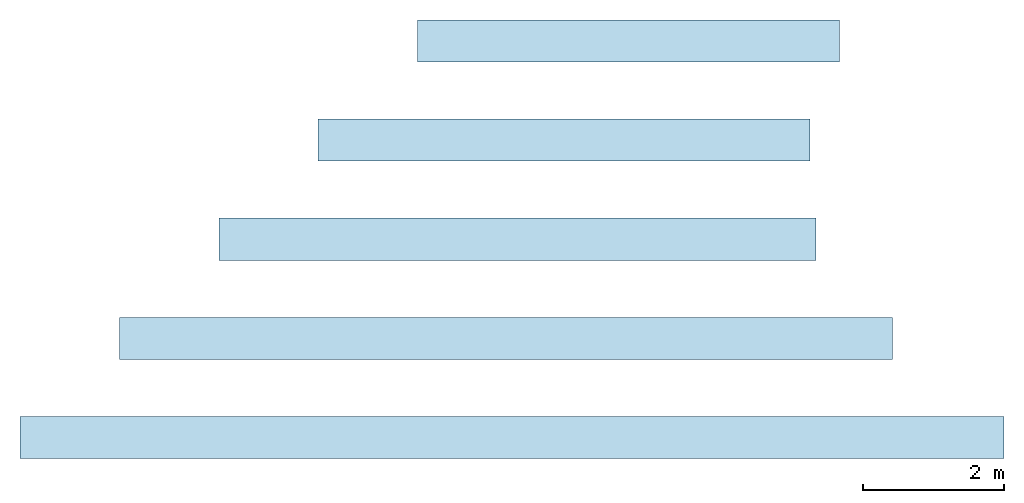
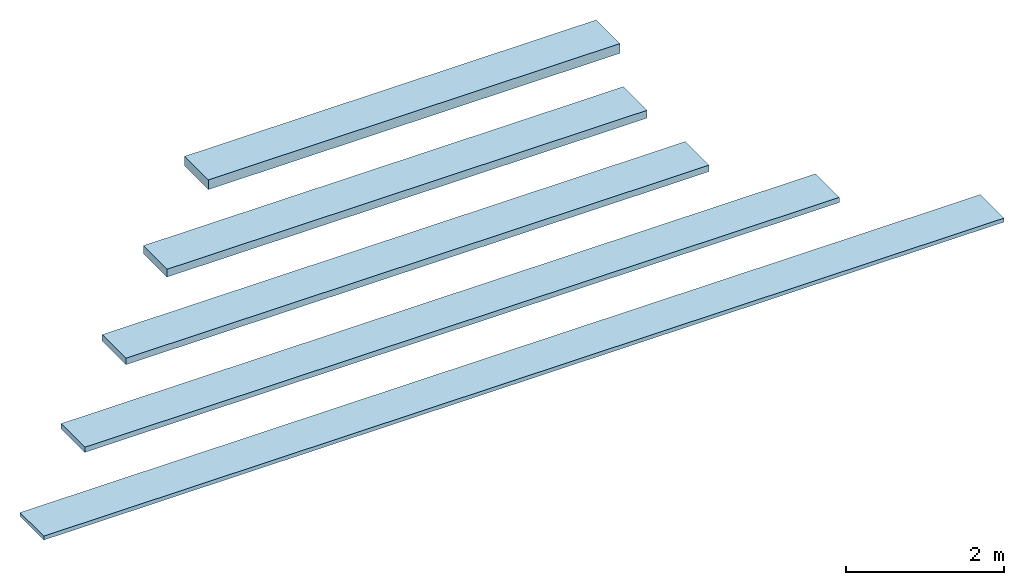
# One storey: 5 slabs, 5 elements without a shape of their own.
"""IFC2X3 building model written with IfcOpenShell, lengths in millimetres."""

from ifc_helpers import new_model, entity, si_unit, converted_unit, derived_unit, direction, frame, frame_2d, origin, origin_2d_with_axis, place, context, subcontext, project, spatial, rectangle, extrude, material, layer, layer_set, element, aggregate, save


model = new_model("IFC2X3")

# Units and contexts
model_context = context("Model", 3, precision=0.01, world=origin(), true_north=direction((6.12303176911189e-17, 1.0)))
context_of_model = context(None, 3, precision=0.01, world=origin(), true_north=direction((6.12303176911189e-17, 1.0)))
body_context = subcontext(model_context, "Body", "Model", "MODEL_VIEW")
ifc_project = project(units=[si_unit("LENGTHUNIT", "METRE", prefix="MILLI"), si_unit("AREAUNIT", "SQUARE_METRE"), si_unit("VOLUMEUNIT", "CUBIC_METRE"), converted_unit("PLANEANGLEUNIT", "DEGREE", entity("IfcRatioMeasure", 0.0174532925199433), si_unit("PLANEANGLEUNIT", "RADIAN"), dimensions=[0, 0, 0, 0, 0, 0, 0]), si_unit("MASSUNIT", "GRAM", prefix="KILO"), derived_unit("MASSDENSITYUNIT", [(si_unit("MASSUNIT", "GRAM", prefix="KILO"), 1), (si_unit("LENGTHUNIT", "METRE"), -3)]), si_unit("TIMEUNIT", "SECOND"), si_unit("FREQUENCYUNIT", "HERTZ"), si_unit("THERMODYNAMICTEMPERATUREUNIT", "DEGREE_CELSIUS"), derived_unit("THERMALTRANSMITTANCEUNIT", [(si_unit("MASSUNIT", "GRAM", prefix="KILO"), 1), (si_unit("THERMODYNAMICTEMPERATUREUNIT", "KELVIN"), -1), (si_unit("TIMEUNIT", "SECOND"), -3)]), derived_unit("VOLUMETRICFLOWRATEUNIT", [(si_unit("LENGTHUNIT", "METRE"), 3), (si_unit("TIMEUNIT", "SECOND"), -1)]), si_unit("ELECTRICCURRENTUNIT", "AMPERE"), si_unit("ELECTRICVOLTAGEUNIT", "VOLT"), si_unit("POWERUNIT", "WATT"), si_unit("FORCEUNIT", "NEWTON", prefix="KILO"), si_unit("ILLUMINANCEUNIT", "LUX"), si_unit("LUMINOUSFLUXUNIT", "LUMEN"), si_unit("LUMINOUSINTENSITYUNIT", "CANDELA"), derived_unit("USERDEFINED", [(si_unit("MASSUNIT", "GRAM", prefix="KILO"), -1), (si_unit("LENGTHUNIT", "METRE"), -2), (si_unit("TIMEUNIT", "SECOND"), 3), (si_unit("LUMINOUSFLUXUNIT", "LUMEN"), 1)]), derived_unit("LINEARVELOCITYUNIT", [(si_unit("LENGTHUNIT", "METRE"), 1), (si_unit("TIMEUNIT", "SECOND"), -1)]), si_unit("PRESSUREUNIT", "PASCAL"), derived_unit("USERDEFINED", [(si_unit("LENGTHUNIT", "METRE"), -2), (si_unit("MASSUNIT", "GRAM", prefix="KILO"), 1), (si_unit("TIMEUNIT", "SECOND"), -2)])], contexts=[model_context, context_of_model])

# Site, building, storey
site_placement = place(None, origin())
site = spatial("IfcSite", under=ifc_project, at=site_placement, Name="Default", CompositionType="ELEMENT")
building_placement = place(site_placement, origin())
building = spatial("IfcBuilding", under=site, at=building_placement, CompositionType="ELEMENT")
storey_placement = place(building_placement, origin())
storey = spatial("IfcBuildingStorey", under=building, at=storey_placement, Name="Level 1", CompositionType="ELEMENT", Elevation=0.0)

# Roof, slab
roof_1_placement = place(storey_placement, frame((900.872817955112, 1855.36159600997, 0.0)))
roof_1 = element("IfcRoof", 1, at=roof_1_placement, inside=storey, Name="Basic Roof:NLRS_27_RO_TR 312_60x600x14000mm:2449", ObjectType="Basic Roof:NLRS_27_RO_TR 312_60x600x14000mm", ShapeType="NOTDEFINED")
ifc_material = material(Name="Knauf Insulation_Ecose® glaswol TR 312")
ifc_layer_1 = layer(ifc_material, 60.0)
ifc_layer_set_1 = layer_set([ifc_layer_1], Name="Basic Roof:NLRS_27_RO_TR 312_60x600x14000mm")
slab_1_placement = place(roof_1_placement, origin())
slab_1 = element("IfcSlab", 2, at=slab_1_placement, material=ifc_layer_set_1, Name="Basic Roof:NLRS_27_RO_TR 312_60x600x14000mm:2449", ObjectType="Basic Roof:NLRS_27_RO_TR 312_60x600x14000mm", PredefinedType="ROOF", context=body_context, shape_type="SweptSolid", body=[
    extrude(rectangle(XDim=14000.0, YDim=600.0, at=frame_2d((0.0, 1.13686837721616e-13), x_axis=(1.0, 0.0))), frame((7000.0, 300.0, 0.0)), (0.0, 0.0, 1.0), 60.0),
])
aggregate(roof_1, [slab_1])

roof_2_placement = place(storey_placement, frame((2315.08638032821, 3267.07515838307, 0.0)))
roof_2 = element("IfcRoof", 3, at=roof_2_placement, inside=storey, Name="Basic Roof:NLRS_27_RO_TR 312_80x600x11000mm:2458", ObjectType="Basic Roof:NLRS_27_RO_TR 312_80x600x11000mm", ShapeType="NOTDEFINED")
ifc_layer_2 = layer(ifc_material, 80.0)
ifc_layer_set_2 = layer_set([ifc_layer_2], Name="Basic Roof:NLRS_27_RO_TR 312_80x600x11000mm")
slab_2_placement = place(roof_2_placement, origin())
slab_2 = element("IfcSlab", 4, at=slab_2_placement, material=ifc_layer_set_2, Name="Basic Roof:NLRS_27_RO_TR 312_80x600x11000mm:2458", ObjectType="Basic Roof:NLRS_27_RO_TR 312_80x600x11000mm", PredefinedType="ROOF", context=body_context, shape_type="SweptSolid", body=[
    extrude(rectangle(XDim=11000.0, YDim=600.0, at=origin_2d_with_axis()), frame((5500.0, 300.0, 0.0)), (0.0, 0.0, 1.0), 80.0),
])
aggregate(roof_2, [slab_2])

roof_3_placement = place(storey_placement, frame((3729.2999427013, 4678.78872075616, 0.0)))
roof_3 = element("IfcRoof", 5, at=roof_3_placement, inside=storey, Name="Basic Roof:NLRS_27_RO_TR 312_100x600x8500mm:2467", ObjectType="Basic Roof:NLRS_27_RO_TR 312_100x600x8500mm", ShapeType="NOTDEFINED")
ifc_layer_3 = layer(ifc_material, 100.0)
ifc_layer_set_3 = layer_set([ifc_layer_3], Name="Basic Roof:NLRS_27_RO_TR 312_100x600x8500mm")
slab_3_placement = place(roof_3_placement, origin())
slab_3 = element("IfcSlab", 6, at=slab_3_placement, material=ifc_layer_set_3, Name="Basic Roof:NLRS_27_RO_TR 312_100x600x8500mm:2467", ObjectType="Basic Roof:NLRS_27_RO_TR 312_100x600x8500mm", PredefinedType="ROOF", context=body_context, shape_type="SweptSolid", body=[
    extrude(rectangle(XDim=8500.0, YDim=600.0, at=origin_2d_with_axis()), frame((4250.0, 300.0, 0.0)), (0.0, 0.0, 1.0), 100.0),
])
aggregate(roof_3, [slab_3])

roof_4_placement = place(storey_placement, frame((5143.5135050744, 6090.50228312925, 0.0)))
roof_4 = element("IfcRoof", 7, at=roof_4_placement, inside=storey, Name="Basic Roof:NLRS_27_RO_TR 312_120x600x7000mm:2476", ObjectType="Basic Roof:NLRS_27_RO_TR 312_120x600x7000mm", ShapeType="NOTDEFINED")
ifc_layer_4 = layer(ifc_material, 120.0)
ifc_layer_set_4 = layer_set([ifc_layer_4], Name="Basic Roof:NLRS_27_RO_TR 312_120x600x7000mm")
slab_4_placement = place(roof_4_placement, origin())
slab_4 = element("IfcSlab", 8, at=slab_4_placement, material=ifc_layer_set_4, Name="Basic Roof:NLRS_27_RO_TR 312_120x600x7000mm:2476", ObjectType="Basic Roof:NLRS_27_RO_TR 312_120x600x7000mm", PredefinedType="ROOF", context=body_context, shape_type="SweptSolid", body=[
    extrude(rectangle(XDim=7000.0, YDim=600.0, at=origin_2d_with_axis()), frame((3500.0, 300.0, 0.0)), (0.0, 0.0, 1.0), 120.0),
])
aggregate(roof_4, [slab_4])

roof_5_placement = place(storey_placement, frame((6557.7270674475, 7497.21584550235, 0.0)))
roof_5 = element("IfcRoof", 9, at=roof_5_placement, inside=storey, Name="Basic Roof:NLRS_27_RO_TR 312_150X600X6000mm:2485", ObjectType="Basic Roof:NLRS_27_RO_TR 312_150X600X6000mm", ShapeType="NOTDEFINED")
ifc_layer_5 = layer(ifc_material, 150.0)
ifc_layer_set_5 = layer_set([ifc_layer_5], Name="Basic Roof:NLRS_27_RO_TR 312_150X600X6000mm")
slab_5_placement = place(roof_5_placement, origin())
slab_5 = element("IfcSlab", 10, at=slab_5_placement, material=ifc_layer_set_5, Name="Basic Roof:NLRS_27_RO_TR 312_150X600X6000mm:2485", ObjectType="Basic Roof:NLRS_27_RO_TR 312_150X600X6000mm", PredefinedType="ROOF", context=body_context, shape_type="SweptSolid", body=[
    extrude(rectangle(XDim=6000.0, YDim=600.0, at=origin_2d_with_axis()), frame((3000.0, 300.0, 0.0)), (0.0, 0.0, 1.0), 150.0),
])
aggregate(roof_5, [slab_5])

save(model, "model.ifc")
